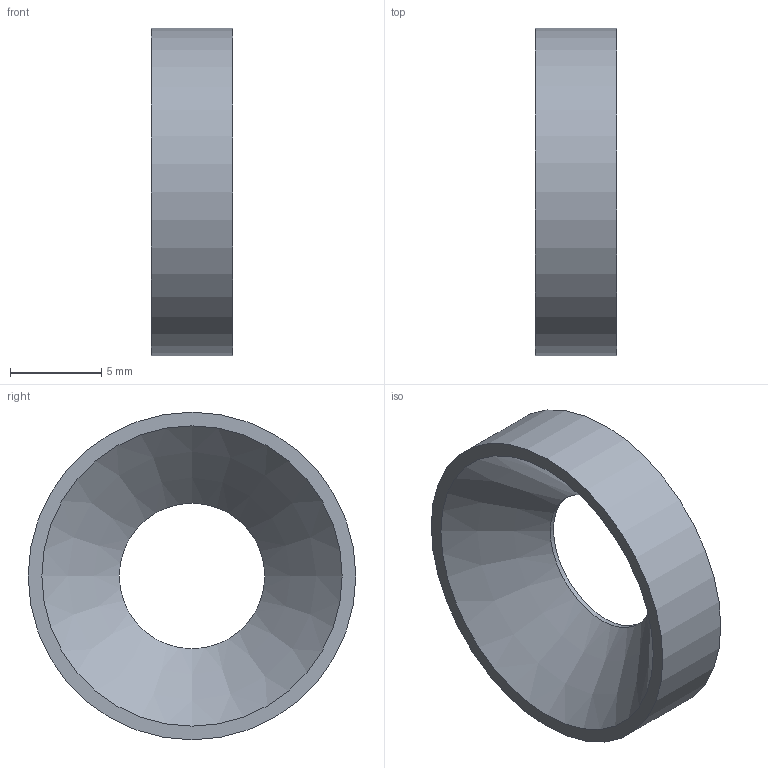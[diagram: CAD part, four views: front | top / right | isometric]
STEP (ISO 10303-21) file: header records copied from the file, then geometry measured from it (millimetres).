
FILE_DESCRIPTION(/* description */ ('STEP AP214'),/* implementation_level */ '2;1');
FILE_NAME(/* name */ 'Mounting Accessory GN 753.2-8-10-4_5-U-NI',/* time_stamp */ '2024-12-09T14:01:49+01:00',/* author */ ('License CC BY-ND 4.0'),/* organization */ ('CADENAS'),/* preprocessor_version */ 'ST-DEVELOPER v19.3',/* originating_system */ 'PARTsolutions',/* authorisation */ ' ');
FILE_SCHEMA (('AUTOMOTIVE_DESIGN {1 0 10303 214 3 1 1}'));
Length unit declared in the file: millimetre
Products named in the file (1): Mounting Accessory GN 753.2-8-10-4,5-U-NI
Bounding box: 4.5 x 18 x 18 mm (x, y, z)
Volume: 611.5 mm3; surface area: 736.9 mm2
Topology: 1 solids, 1 shells, 5 faces, 8 edges, 5 vertices
Faces by surface type: plane 2, cylinder 2, cone 1
Full cylindrical faces by diameter (mm): 8 x1, 18 x1
Entity records: 138 total; most frequent: DIRECTION 22, CARTESIAN_POINT 16, AXIS2_PLACEMENT_3D 11, ORIENTED_EDGE 10, EDGE_LOOP 10, FACE_BOUND 10, EDGE_CURVE 5, VERTEX_POINT 5
